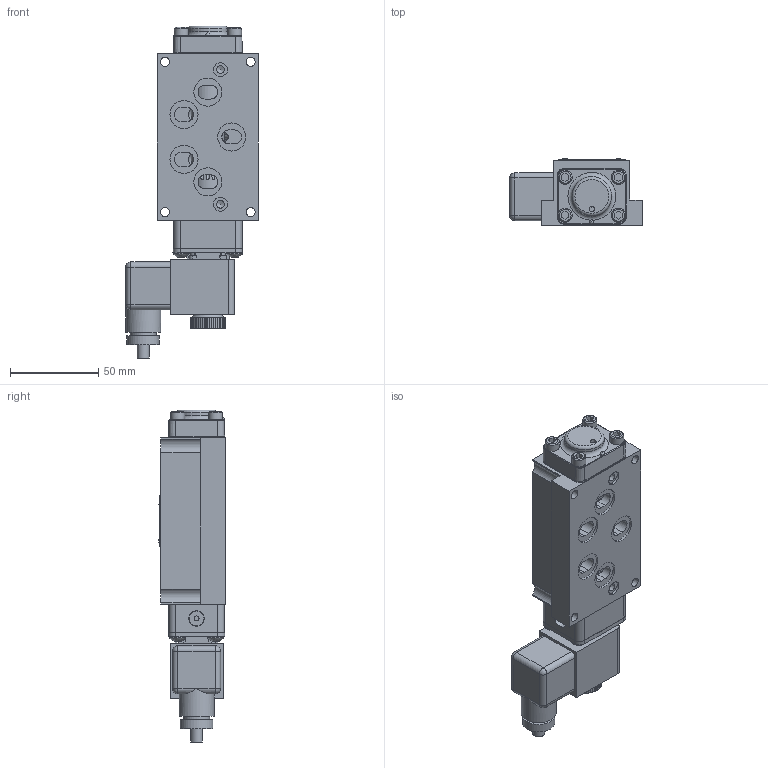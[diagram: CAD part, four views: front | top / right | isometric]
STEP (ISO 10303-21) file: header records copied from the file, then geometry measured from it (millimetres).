
FILE_DESCRIPTION(/* description */ (''),/* implementation_level */ '2;1');
FILE_NAME(/* name */ 'D:\Website Files\stp\Valves\Standard\ESO\ESO3PTLZ.stp',/* time_stamp */ '2019-02-08T20:49:49-05:00',/* author */ ('RMcKenna'),/* organization */ (''),/* preprocessor_version */ 'ST-DEVELOPER v17',/* originating_system */ 'Autodesk Inventor 2018',/* authorisation */ '');
FILE_SCHEMA (('AUTOMOTIVE_DESIGN { 1 0 10303 214 3 1 1 }'));
Products named in the file (1): Part19
Bounding box: 75.06 x 37.86 x 187.79 mm (x, y, z)
Volume: 227247.8 mm3; surface area: 72605.5 mm2
Topology: 3 solids, 35 shells, 1542 faces, 3872 edges, 2505 vertices
Faces by surface type: plane 707, cylinder 423, cone 237, torus 119, bspline 45, sphere 11
Full cylindrical faces by diameter (mm): 1.3 x1, 1.397 x1, 1.5 x1, 2.032 x8, 2.07 x2, 2.261 x2, 2.35 x4, 2.778 x2, 2.8 x1, 2.819 x1, 3 x4, 3.048 x2, 3.175 x2, 3.4 x1, 3.683 x9, 3.861 x2, 4.191 x2, 4.366 x2, 4.369 x3, 4.826 x8, 4.953 x1, 5.15 x4, 5.156 x8, 5.159 x4, 5.5 x1, 6.553 x1, 6.731 x1, 7.315 x1, 7.925 x2, 7.938 x4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
Entity records: 51260 total; most frequent: CARTESIAN_POINT 12347, DIRECTION 7896, ORIENTED_EDGE 7694, EDGE_CURVE 3847, AXIS2_PLACEMENT_3D 3039, VERTEX_POINT 2505, LINE 1818, VECTOR 1818
